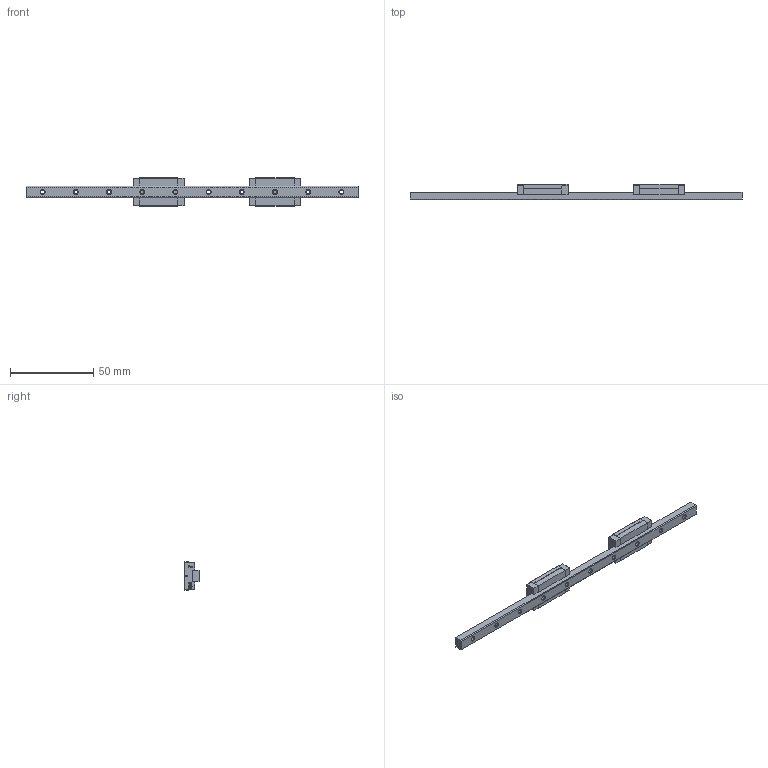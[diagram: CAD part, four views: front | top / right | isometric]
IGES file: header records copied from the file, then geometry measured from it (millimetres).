
Start section: SolidWorks IGES file using analytic representation for surfaces
Global section: file name: H:\直得科技CAD圖檔\3D目錄檔\MR-M Series\7ML.IGS; native system: SolidWorks 2005 by SolidWorks Corporation; preprocessor: SolidWorks 2005 by SolidWorks Corporation; author: cpc; date: 050331.121525; units: millimetre
Bounding box: 200 x 9.5 x 17 mm (x, y, z)
Surface area: 7641.4 mm2 (no closed solid volume)
Topology: 0 solids, 0 shells, 445 faces, 5948 edges, 5924 vertices
Faces by surface type: bspline 293, revolution 152
